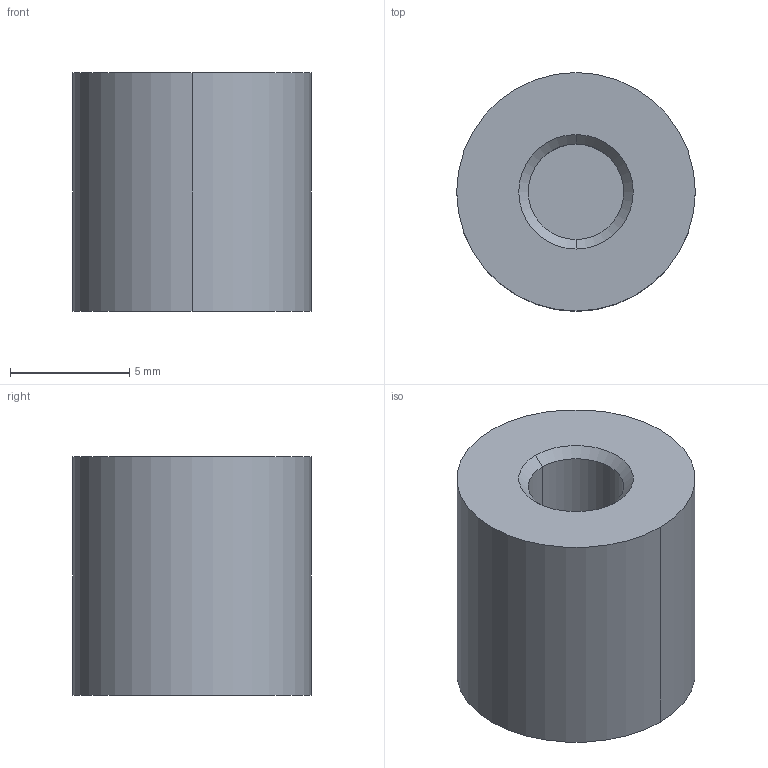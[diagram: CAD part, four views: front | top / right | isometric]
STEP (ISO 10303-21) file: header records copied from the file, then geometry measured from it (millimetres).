
FILE_DESCRIPTION (( 'STEP AP203' ), '1' );
FILE_NAME ('vd3-1010m4-sus.STEP', '2021-10-21T08:01:37', ( '' ), ( '' ), 'SwSTEP 2.0', 'SolidWorks 2020', '' );
FILE_SCHEMA (( 'CONFIG_CONTROL_DESIGN' ));
Length unit declared in the file: millimetre
Products named in the file (1): vd3-1010m4-sus
Bounding box: 10 x 10 x 10 mm (x, y, z)
Volume: 682.7 mm3; surface area: 566.3 mm2
Topology: 1 solids, 1 shells, 14 faces, 26 edges, 16 vertices
Faces by surface type: cylinder 6, cone 4, plane 4
Entity records: 431 total; most frequent: DIRECTION 72, CARTESIAN_POINT 57, ORIENTED_EDGE 52, AXIS2_PLACEMENT_3D 31, EDGE_CURVE 26, VERTEX_POINT 16, CIRCLE 16, EDGE_LOOP 16
